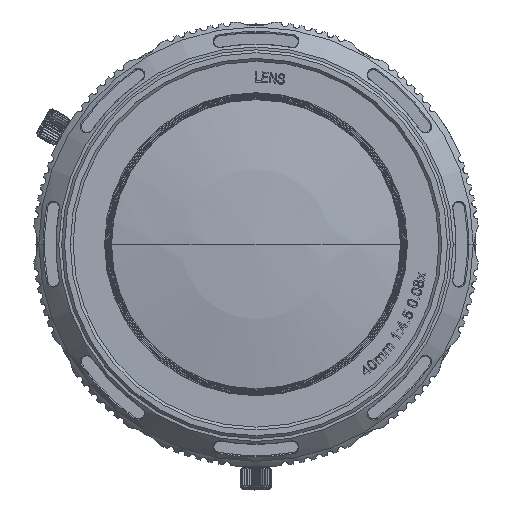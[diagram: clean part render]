
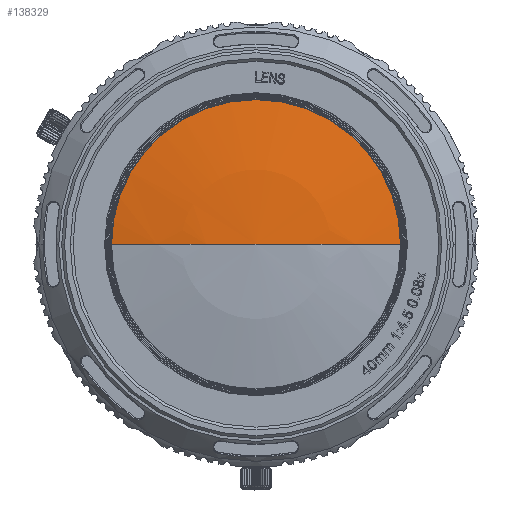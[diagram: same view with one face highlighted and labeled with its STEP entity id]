
A CAD part, left-side view. The second image highlights one B-rep face of the part: STEP entity #138329.
In plain terms, the highlighted spherical face has radius 136.887 mm.
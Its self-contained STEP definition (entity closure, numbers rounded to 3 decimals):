
#116127=CARTESIAN_POINT('',(84.06,0.,0.));
#116128=DIRECTION('',(0.,0.,-1.));
#116129=DIRECTION('',(-0.982,-0.19,0.));
#116130=AXIS2_PLACEMENT_3D('',#116127,#116128,#116129);
#116132=CARTESIAN_POINT('',(-50.335,0.,0.));
#116133=DIRECTION('',(1.,0.,0.));
#116134=DIRECTION('',(0.,1.,0.));
#116135=AXIS2_PLACEMENT_3D('',#116132,#116133,#116134);
#116142=CARTESIAN_POINT('',(84.06,0.,0.));
#116143=DIRECTION('',(0.,0.,1.));
#116144=DIRECTION('',(-0.982,0.19,0.));
#116145=AXIS2_PLACEMENT_3D('',#116142,#116143,#116144);
#119235=CARTESIAN_POINT('',(-50.335,26.,0.));
#119236=VERTEX_POINT('',#119235);
#119237=CARTESIAN_POINT('',(-50.335,-26.,0.));
#119238=VERTEX_POINT('',#119237);
#119241=CARTESIAN_POINT('',(-52.827,0.,0.));
#119242=VERTEX_POINT('',#119241);
#138317=CARTESIAN_POINT('',(84.06,0.,0.));
#138318=DIRECTION('',(1.,0.,0.));
#138319=DIRECTION('',(0.,-1.,0.));
#138320=AXIS2_PLACEMENT_3D('',#138317,#138318,#138319);
#138321=SPHERICAL_SURFACE('',#138320,136.887);
#138323=ORIENTED_EDGE('',*,*,#138322,.T.);
#138325=ORIENTED_EDGE('',*,*,#138324,.F.);
#138326=ORIENTED_EDGE('',*,*,#138297,.T.);
#138327=EDGE_LOOP('',(#138323,#138325,#138326));
#138328=FACE_OUTER_BOUND('',#138327,.F.);
#116131=CIRCLE('',#116130,136.887);
#116136=CIRCLE('',#116135,26.);
#116146=CIRCLE('',#116145,136.887);
#138297=EDGE_CURVE('',#119236,#119238,#116136,.T.);
#138322=EDGE_CURVE('',#119238,#119242,#116131,.T.);
#138324=EDGE_CURVE('',#119236,#119242,#116146,.T.);
#138329=ADVANCED_FACE('',(#138328),#138321,.T.);
